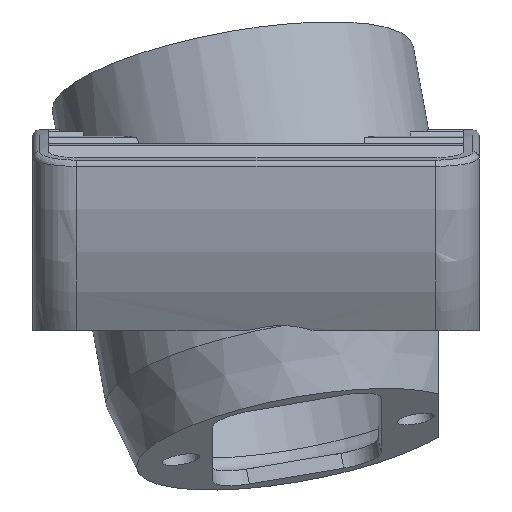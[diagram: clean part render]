
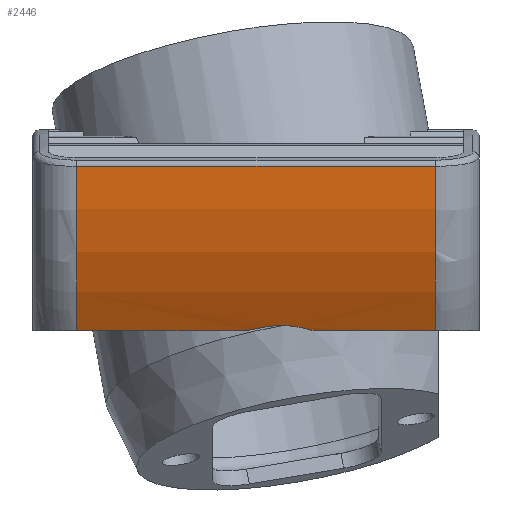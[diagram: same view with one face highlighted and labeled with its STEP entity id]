
A CAD part, left-side view. The second image highlights one B-rep face of the part: STEP entity #2446.
In plain terms, the highlighted cylindrical face has radius 52.35 mm (diameter 104.7 mm), a partial arc.
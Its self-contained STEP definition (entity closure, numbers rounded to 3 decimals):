
#105=CYLINDRICAL_SURFACE('',#2741,52.35);
#155=LINE('',#3778,#332);
#167=LINE('',#3877,#344);
#190=LINE('',#4191,#367);
#332=VECTOR('',#2884,10.);
#344=VECTOR('',#2896,10.);
#367=VECTOR('',#3109,10.);
#703=FACE_OUTER_BOUND('',#852,.T.);
#852=EDGE_LOOP('',(#2293,#2294,#2295,#2296,#2297,#2298,#2299));
#902=CIRCLE('',#2616,52.35);
#946=CIRCLE('',#2742,52.35);
#954=B_SPLINE_CURVE_WITH_KNOTS('',3,(#3693,#3694,#3695,#3696),
 .UNSPECIFIED.,.F.,.F.,(4,4),(0.095,0.58),
 .UNSPECIFIED.);
#963=B_SPLINE_CURVE_WITH_KNOTS('',3,(#3910,#3911,#3912,#3913,#3914,#3915),
 .UNSPECIFIED.,.F.,.F.,(4,2,4),(10.059,10.131,10.639),
 .UNSPECIFIED.);
#1030=VERTEX_POINT('',#3690);
#1031=VERTEX_POINT('',#3692);
#1042=VERTEX_POINT('',#3775);
#1043=VERTEX_POINT('',#3777);
#1058=VERTEX_POINT('',#3858);
#1129=VERTEX_POINT('',#4171);
#1131=VERTEX_POINT('',#4187);
#1266=EDGE_CURVE('',#1031,#1030,#954,.T.);
#1280=EDGE_CURVE('',#1042,#1043,#155,.T.);
#1296=EDGE_CURVE('',#1058,#1030,#167,.T.);
#1305=EDGE_CURVE('',#1042,#1031,#963,.T.);
#1400=EDGE_CURVE('',#1129,#1131,#190,.T.);
#1408=EDGE_CURVE('',#1043,#1129,#902,.T.);
#1571=EDGE_CURVE('',#1131,#1058,#946,.T.);
#2293=ORIENTED_EDGE('',*,*,#1400,.F.);
#2294=ORIENTED_EDGE('',*,*,#1408,.F.);
#2295=ORIENTED_EDGE('',*,*,#1280,.F.);
#2296=ORIENTED_EDGE('',*,*,#1305,.T.);
#2297=ORIENTED_EDGE('',*,*,#1266,.T.);
#2298=ORIENTED_EDGE('',*,*,#1296,.F.);
#2299=ORIENTED_EDGE('',*,*,#1571,.F.);
#2446=ADVANCED_FACE('',(#703),#105,.T.);
#2616=AXIS2_PLACEMENT_3D('',#4283,#3120,#3121);
#2741=AXIS2_PLACEMENT_3D('',#4660,#3481,#3482);
#2742=AXIS2_PLACEMENT_3D('',#4661,#3483,#3484);
#2884=DIRECTION('',(0.,1.,0.));
#2896=DIRECTION('',(0.,1.,0.));
#3109=DIRECTION('',(0.,-1.,0.));
#3120=DIRECTION('center_axis',(0.,1.,0.));
#3121=DIRECTION('ref_axis',(-0.964,0.,-0.268));
#3481=DIRECTION('center_axis',(0.,1.,0.));
#3482=DIRECTION('ref_axis',(-0.857,0.,-0.516));
#3483=DIRECTION('center_axis',(0.,-1.,0.));
#3484=DIRECTION('ref_axis',(-0.964,0.,-0.268));
#3690=CARTESIAN_POINT('',(7.5,26.499,0.));
#3692=CARTESIAN_POINT('',(7.017,31.203,0.818));
#3693=CARTESIAN_POINT('Ctrl Pts',(7.017,31.203,0.818));
#3694=CARTESIAN_POINT('Ctrl Pts',(7.066,29.6,0.735));
#3695=CARTESIAN_POINT('Ctrl Pts',(7.233,28.029,0.444));
#3696=CARTESIAN_POINT('Ctrl Pts',(7.5,26.499,0.));
#3775=CARTESIAN_POINT('',(7.5,37.,0.));
#3777=CARTESIAN_POINT('',(7.5,64.2,0.));
#3778=CARTESIAN_POINT('',(7.5,0.,0.));
#3858=CARTESIAN_POINT('',(7.5,7.,0.));
#3877=CARTESIAN_POINT('',(7.5,0.,0.));
#3910=CARTESIAN_POINT('Ctrl Pts',(7.5,37.,0.));
#3911=CARTESIAN_POINT('Ctrl Pts',(7.462,36.764,0.063));
#3912=CARTESIAN_POINT('Ctrl Pts',(7.426,36.527,0.123));
#3913=CARTESIAN_POINT('Ctrl Pts',(7.157,34.614,0.573));
#3914=CARTESIAN_POINT('Ctrl Pts',(7.036,32.899,0.786));
#3915=CARTESIAN_POINT('Ctrl Pts',(7.017,31.203,0.818));
#4171=CARTESIAN_POINT('',(0.006,64.2,26.197));
#4187=CARTESIAN_POINT('',(0.006,7.,26.197));
#4191=CARTESIAN_POINT('',(0.006,0.,26.197));
#4283=CARTESIAN_POINT('Origin',(52.35,64.2,27.));
#4660=CARTESIAN_POINT('Origin',(52.35,0.,27.));
#4661=CARTESIAN_POINT('Origin',(52.35,7.,27.));
